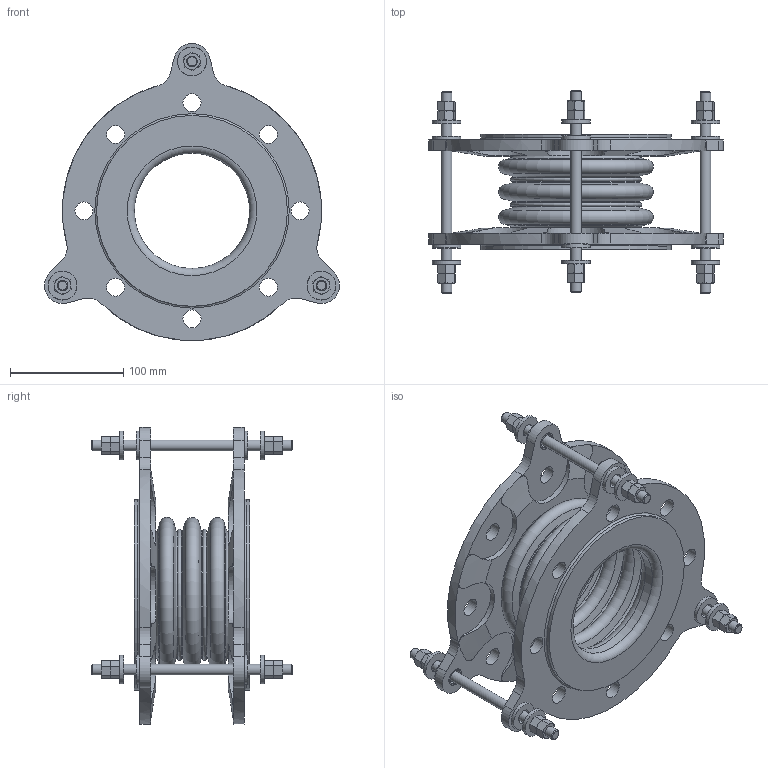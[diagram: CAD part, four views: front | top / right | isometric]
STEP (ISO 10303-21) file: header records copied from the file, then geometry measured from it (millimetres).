
FILE_DESCRIPTION(/* description */ (''),/* implementation_level */ '2;1');
FILE_NAME(/* name */ 'C:\Users\rramoutar\Desktop\803\803 4IDx4FF.stp',/* time_stamp */ '2016-04-24T17:39:31-04:00',/* author */ ('rramoutar'),/* organization */ ('Mason Industries Inc.'),/* preprocessor_version */ 'ST-DEVELOPER v15.6',/* originating_system */ 'Autodesk Inventor 2015',/* authorisation */ '');
FILE_SCHEMA (('CONFIG_CONTROL_DESIGN'));
Length unit declared in the file: inch
Products named in the file (1): 803 4IDx4FF
Bounding box: 259.85 x 177.8 x 261.88 mm (x, y, z)
Volume: 1104363.1 mm3; surface area: 332178.4 mm2
Topology: 6 solids, 6 shells, 529 faces, 1177 edges, 704 vertices
Faces by surface type: plane 184, cone 178, cylinder 141, torus 26
Full cylindrical faces by diameter (mm): 9.525 x9, 11.112 x6, 13.097 x6, 15.478 x6, 15.875 x22, 25.4 x12, 101.6 x2, 107.95 x2, 109.537 x2, 168.275 x2
Entity records: 14706 total; most frequent: CARTESIAN_POINT 3596, DIRECTION 2180, ORIENTED_EDGE 2116, EDGE_CURVE 1058, AXIS2_PLACEMENT_3D 976, EDGE_LOOP 734, VERTEX_POINT 696, FACE_OUTER_BOUND 529
